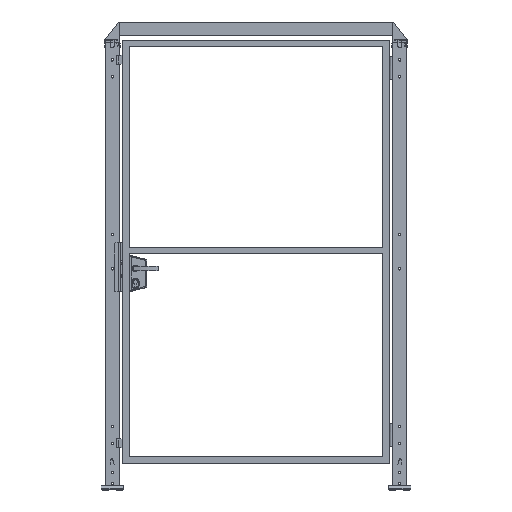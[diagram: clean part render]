
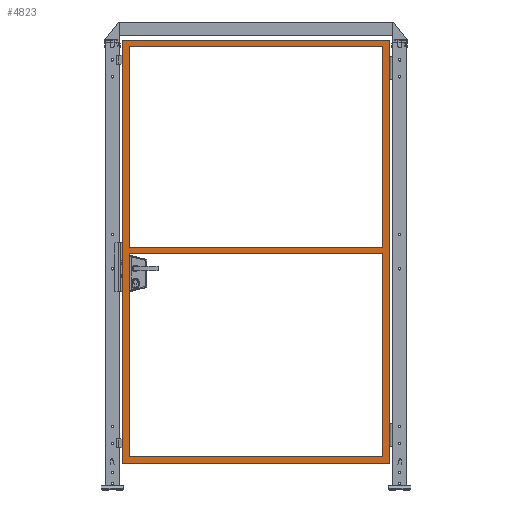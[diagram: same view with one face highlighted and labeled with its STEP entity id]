
A CAD part, top view. The second image highlights one B-rep face of the part: STEP entity #4823.
In plain terms, the highlighted planar face has unit normal (0, 0, 1).
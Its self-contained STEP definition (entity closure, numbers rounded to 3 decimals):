
#4823=ADVANCED_FACE('',(#9878,#9879,#9880),#9881,.F.);
#9878=FACE_BOUND('',#17852,.T.);
#9879=FACE_OUTER_BOUND('',#17853,.T.);
#9880=FACE_BOUND('',#17854,.T.);
#9881=PLANE('',#17855);
#17852=EDGE_LOOP('',(#32088,#32089,#32090,#32091));
#17853=EDGE_LOOP('',(#32092,#32093,#32094,#32095));
#17854=EDGE_LOOP('',(#32096,#32097,#32098,#32099));
#17855=AXIS2_PLACEMENT_3D('',#32100,#32101,#32102);
#32088=ORIENTED_EDGE('',*,*,#37969,.F.);
#32089=ORIENTED_EDGE('',*,*,#37975,.T.);
#32090=ORIENTED_EDGE('',*,*,#37997,.T.);
#32091=ORIENTED_EDGE('',*,*,#38002,.F.);
#32092=ORIENTED_EDGE('',*,*,#38013,.F.);
#32093=ORIENTED_EDGE('',*,*,#38007,.F.);
#32094=ORIENTED_EDGE('',*,*,#37977,.F.);
#32095=ORIENTED_EDGE('',*,*,#38011,.F.);
#32096=ORIENTED_EDGE('',*,*,#37999,.F.);
#32097=ORIENTED_EDGE('',*,*,#37994,.F.);
#32098=ORIENTED_EDGE('',*,*,#38005,.T.);
#32099=ORIENTED_EDGE('',*,*,#38014,.T.);
#32100=CARTESIAN_POINT('',(615.0,135.0,15.0));
#32101=DIRECTION('',(0.,0.0,-1.0));
#32102=DIRECTION('',(-1.0,0.0,0.));
#37969=EDGE_CURVE('',#46828,#46831,#46832,.T.);
#37975=EDGE_CURVE('',#46828,#46839,#46841,.T.);
#37977=EDGE_CURVE('',#46843,#46844,#46845,.T.);
#37994=EDGE_CURVE('',#46871,#46869,#46873,.T.);
#37997=EDGE_CURVE('',#46839,#46875,#46877,.T.);
#37999=EDGE_CURVE('',#46869,#46879,#46880,.T.);
#38002=EDGE_CURVE('',#46831,#46875,#46883,.T.);
#38005=EDGE_CURVE('',#46871,#46885,#46887,.T.);
#38007=EDGE_CURVE('',#46844,#46889,#46890,.T.);
#38011=EDGE_CURVE('',#46893,#46843,#46895,.T.);
#38013=EDGE_CURVE('',#46889,#46893,#46897,.T.);
#38014=EDGE_CURVE('',#46885,#46879,#46898,.T.);
#46828=VERTEX_POINT('',#60680);
#46831=VERTEX_POINT('',#60684);
#46832=LINE('',#60685,#60686);
#46839=VERTEX_POINT('',#60696);
#46841=LINE('',#60699,#60700);
#46843=VERTEX_POINT('',#60702);
#46844=VERTEX_POINT('',#60703);
#46845=LINE('',#60704,#60705);
#46869=VERTEX_POINT('',#60741);
#46871=VERTEX_POINT('',#60744);
#46873=LINE('',#60747,#60748);
#46875=VERTEX_POINT('',#60750);
#46877=LINE('',#60753,#60754);
#46879=VERTEX_POINT('',#60756);
#46880=LINE('',#60757,#60758);
#46883=LINE('',#60762,#60763);
#46885=VERTEX_POINT('',#60765);
#46887=LINE('',#60768,#60769);
#46889=VERTEX_POINT('',#60771);
#46890=LINE('',#60772,#60773);
#46893=VERTEX_POINT('',#60777);
#46895=LINE('',#60780,#60781);
#46897=LINE('',#60783,#60784);
#46898=LINE('',#60785,#60786);
#60680=CARTESIAN_POINT('',(1185.0,1990.0,15.));
#60684=CARTESIAN_POINT('',(45.0,1990.0,15.0));
#60685=CARTESIAN_POINT('',(615.0,1990.0,15.0));
#60686=VECTOR('',#67067,1.0);
#60696=CARTESIAN_POINT('',(1185.0,1090.0,15.));
#60699=CARTESIAN_POINT('',(1185.0,1070.0,15.));
#60700=VECTOR('',#67072,1.0);
#60702=CARTESIAN_POINT('',(15.0,120.0,15.0));
#60703=CARTESIAN_POINT('',(15.,2020.0,15.0));
#60704=CARTESIAN_POINT('',(15.0,135.0,15.0));
#60705=VECTOR('',#67073,1.0);
#60741=CARTESIAN_POINT('',(45.,1060.0,15.0));
#60744=CARTESIAN_POINT('',(1185.0,1060.0,15.));
#60747=CARTESIAN_POINT('',(615.0,1060.0,15.0));
#60748=VECTOR('',#67088,1.0);
#60750=CARTESIAN_POINT('',(45.0,1090.0,15.0));
#60753=CARTESIAN_POINT('',(615.0,1090.0,15.0));
#60754=VECTOR('',#67090,1.0);
#60756=CARTESIAN_POINT('',(45.0,150.0,15.0));
#60757=CARTESIAN_POINT('',(45.,1070.0,15.0));
#60758=VECTOR('',#67091,1.0);
#60762=CARTESIAN_POINT('',(45.,1070.0,15.0));
#60763=VECTOR('',#67093,1.0);
#60765=CARTESIAN_POINT('',(1185.0,150.0,15.));
#60768=CARTESIAN_POINT('',(1185.0,1070.0,15.));
#60769=VECTOR('',#67095,1.0);
#60771=CARTESIAN_POINT('',(1215.0,2020.0,15.));
#60772=CARTESIAN_POINT('',(30.,2020.0,15.0));
#60773=VECTOR('',#67096,1.0);
#60777=CARTESIAN_POINT('',(1215.0,120.0,15.));
#60780=CARTESIAN_POINT('',(615.0,120.0,15.0));
#60781=VECTOR('',#67099,1.0);
#60783=CARTESIAN_POINT('',(1215.0,1070.0,15.));
#60784=VECTOR('',#67100,1.0);
#60785=CARTESIAN_POINT('',(615.0,150.0,15.0));
#60786=VECTOR('',#67101,1.0);
#67067=DIRECTION('',(-1.0,0.0,0.));
#67072=DIRECTION('',(0.,-1.0,0.));
#67073=DIRECTION('',(0.0,1.0,0.0));
#67088=DIRECTION('',(-1.0,0.0,0.));
#67090=DIRECTION('',(-1.0,0.0,0.));
#67091=DIRECTION('',(0.,-1.0,0.));
#67093=DIRECTION('',(0.,-1.0,0.));
#67095=DIRECTION('',(0.,-1.0,0.));
#67096=DIRECTION('',(1.0,0.,0.));
#67099=DIRECTION('',(-1.0,0.0,0.));
#67100=DIRECTION('',(0.,-1.0,0.));
#67101=DIRECTION('',(-1.0,0.0,0.));
